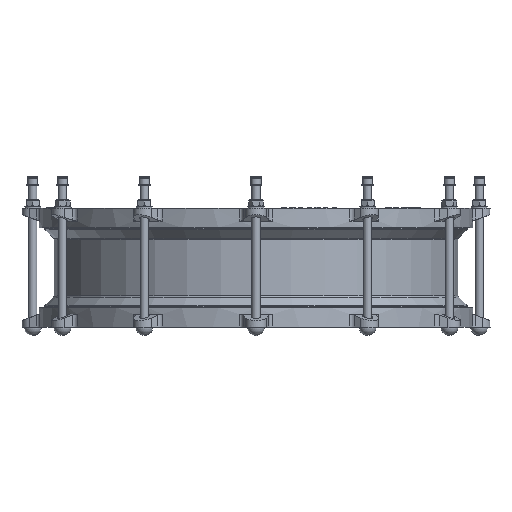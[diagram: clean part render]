
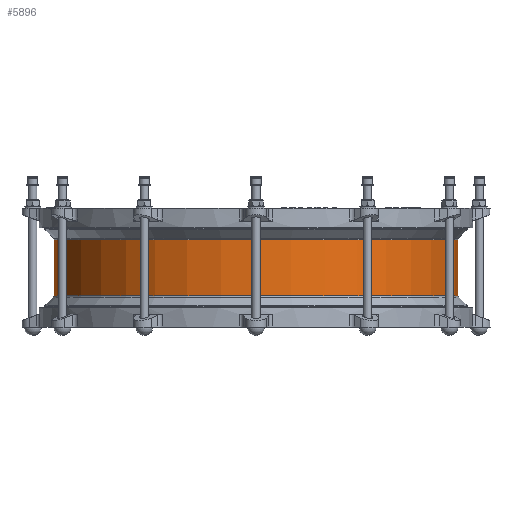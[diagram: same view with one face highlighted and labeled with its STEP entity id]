
A CAD part, front view. The second image highlights one B-rep face of the part: STEP entity #5896.
In plain terms, the highlighted cylindrical face has radius 377.5 mm (diameter 755 mm), a full revolution.
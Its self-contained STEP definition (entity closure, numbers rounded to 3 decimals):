
#5896=ADVANCED_FACE('',(#11015,#11017),#11019,.T.);
#11015=FACE_OUTER_BOUND('',#11016,.T.);
#11016=EDGE_LOOP('',(#16173));
#11017=FACE_OUTER_BOUND('',#11018,.T.);
#11018=EDGE_LOOP('',(#16174));
#11019=CYLINDRICAL_SURFACE('',#11020,377.5);
#11020=AXIS2_PLACEMENT_3D('',#11021,#11022,#11023);
#11021=CARTESIAN_POINT('',(0.,0.,53.843));
#11022=DIRECTION('',(0.,0.,-1.));
#11023=DIRECTION('',(0.,1.,0.));
#16173=ORIENTED_EDGE('',*,*,#18444,.T.);
#16174=ORIENTED_EDGE('',*,*,#18445,.F.);
#18444=EDGE_CURVE('',#21595,#21595,#21596,.T.);
#18445=EDGE_CURVE('',#21597,#21597,#21598,.T.);
#21595=VERTEX_POINT('',#36337);
#21596=CIRCLE('',#36338,377.5);
#21597=VERTEX_POINT('',#36342);
#21598=CIRCLE('',#36343,377.5);
#36337=CARTESIAN_POINT('',(0.,377.5,52.186));
#36338=AXIS2_PLACEMENT_3D('',#36339,#36340,#36341);
#36339=CARTESIAN_POINT('',(0.,0.,52.186));
#36340=DIRECTION('',(0.,0.,-1.));
#36341=DIRECTION('',(0.,1.,0.));
#36342=CARTESIAN_POINT('',(0.,377.5,-52.186));
#36343=AXIS2_PLACEMENT_3D('',#36344,#36345,#36346);
#36344=CARTESIAN_POINT('',(0.,0.,-52.186));
#36345=DIRECTION('',(0.,0.,-1.));
#36346=DIRECTION('',(0.,1.,0.));
